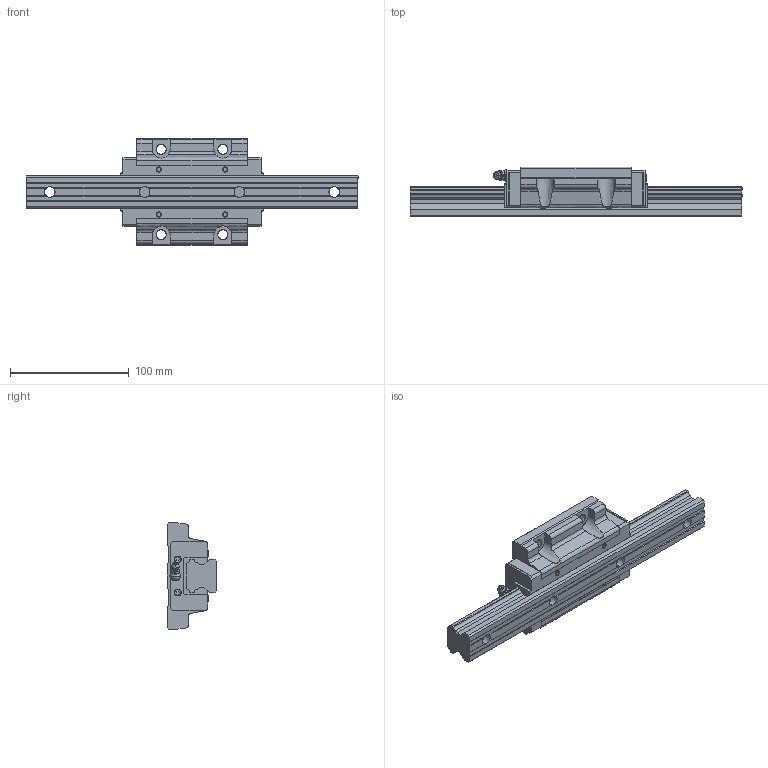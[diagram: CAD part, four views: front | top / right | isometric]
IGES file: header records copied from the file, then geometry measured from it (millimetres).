
Start section: SolidWorks IGES file using analytic representation for surfaces
Global section: file name: D:\Qsync\EOS Design B.V\Projecten\LM Systems\Models HSV\FINISHED\HSR30LCSSC.IGS; native system: SolidWorks 2016; preprocessor: SolidWorks 2016; author: EOS; date: 160329.133528; units: millimetre
Bounding box: 280 x 42 x 90 mm (x, y, z)
Surface area: 74250.4 mm2 (no closed solid volume)
Topology: 0 solids, 0 shells, 347 faces, 3964 edges, 3956 vertices
Faces by surface type: bspline 243, revolution 104
